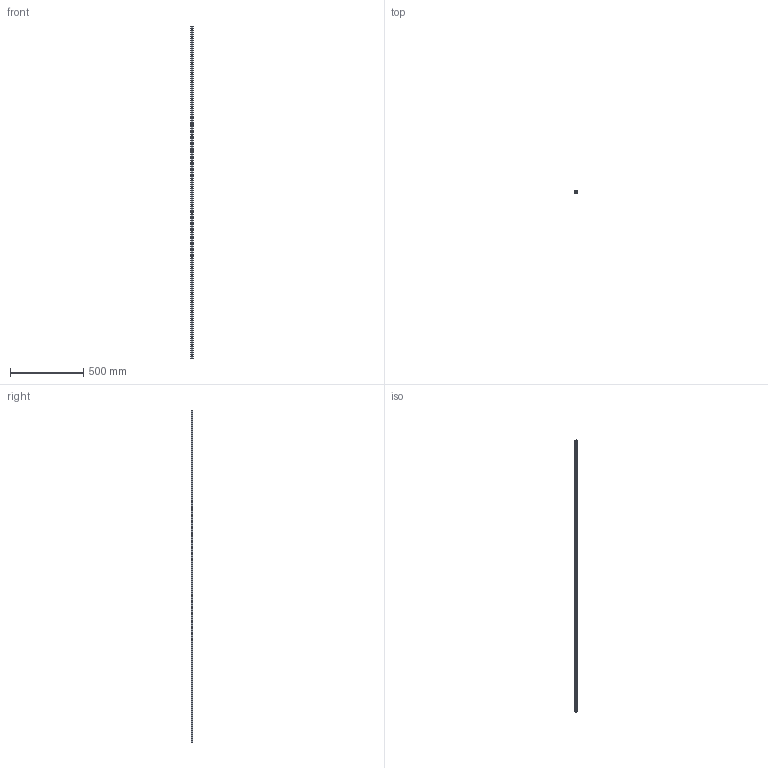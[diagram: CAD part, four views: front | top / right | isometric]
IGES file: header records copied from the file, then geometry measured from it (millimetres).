
Start section: SolidWorks IGES file using analytic representation for surfaces
Global section: file name: C:\Users\IanO\Desktop\L1016_v2\L1016.BL15_v2\L1016.BL15_v2_20190611_IGES\L1016.BL15-2260.igs; native system: SolidWorks 2017; preprocessor: SolidWorks 2017; author: IanO; date: 190612.123138; units: millimetre
Bounding box: 15 x 13 x 2260 mm (x, y, z)
Surface area: 138125.6 mm2 (no closed solid volume)
Topology: 0 solids, 0 shells, 216 faces, 5624 edges, 5624 vertices
Faces by surface type: revolution 156, bspline 60
